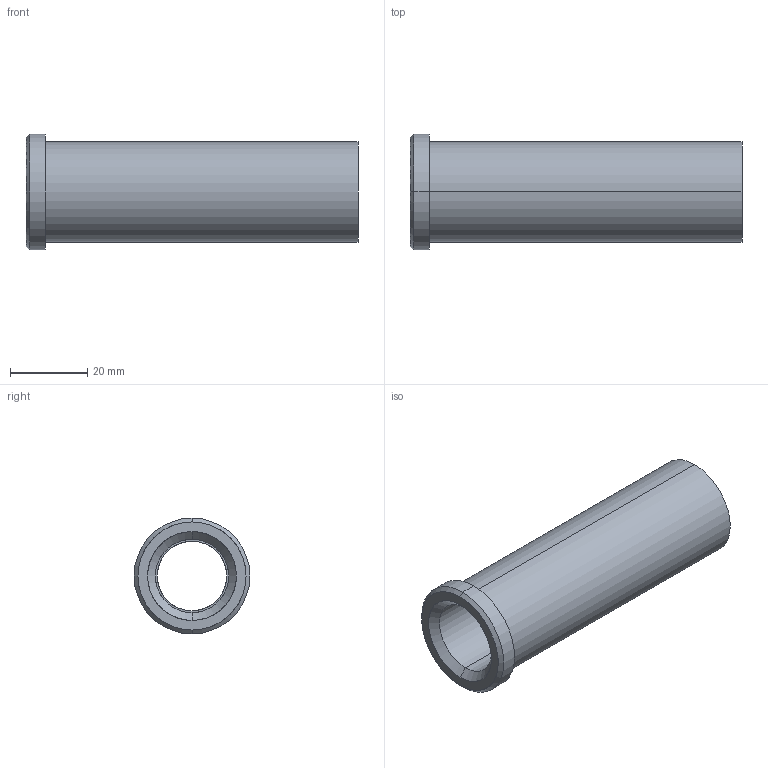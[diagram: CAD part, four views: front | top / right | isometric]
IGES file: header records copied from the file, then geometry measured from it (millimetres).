
Start section: START RECORD GO HERE.
Global section: file name: 353-18X86.igs; native system: DASSAULT SYSTEMES CATIA V5 R20 - www.3ds.com; preprocessor: CATIA Version 5 Release 20 ; author: Utente; organization: NB04-ASUS; date: 20210508.103924; units: millimetre
Bounding box: 86 x 30 x 30 mm (x, y, z)
Surface area: 12855.8 mm2 (no closed solid volume)
Topology: 0 solids, 0 shells, 18 faces, 116 edges, 116 vertices
Faces by surface type: revolution 14, plane 4
